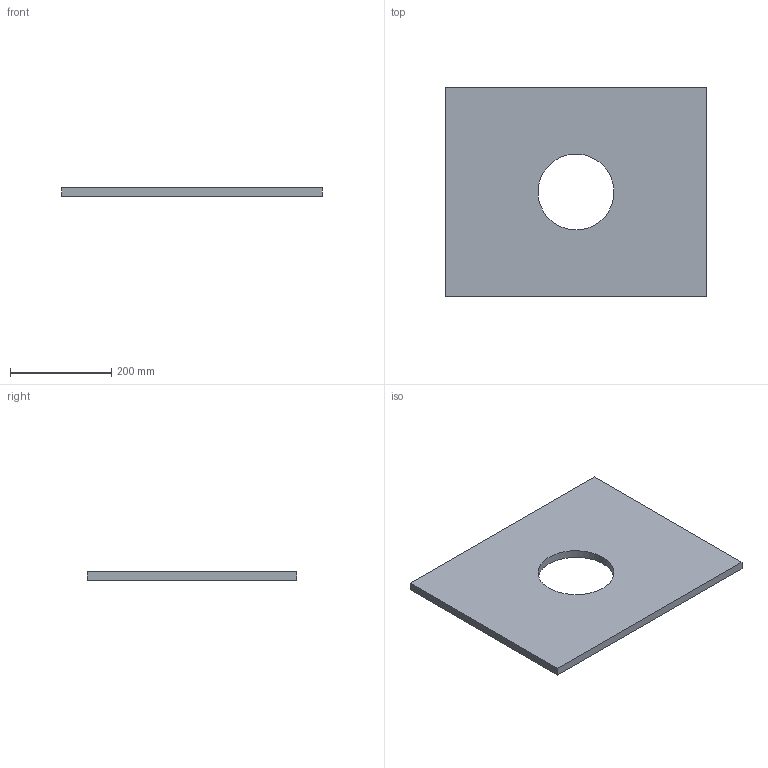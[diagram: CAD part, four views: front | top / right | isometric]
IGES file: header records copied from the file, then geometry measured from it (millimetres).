
Global section: file name: 510023; native system: Autodesk Inventor 2023; preprocessor: unknown; author: JANAN; date: 20241002.131654; units: millimetre
Bounding box: 514 x 413 x 16 mm (x, y, z)
Volume: 3113399.2 mm3; surface area: 426434.9 mm2
Topology: 1 solids, 1 shells, 7 faces, 15 edges, 10 vertices
Faces by surface type: bspline 7
